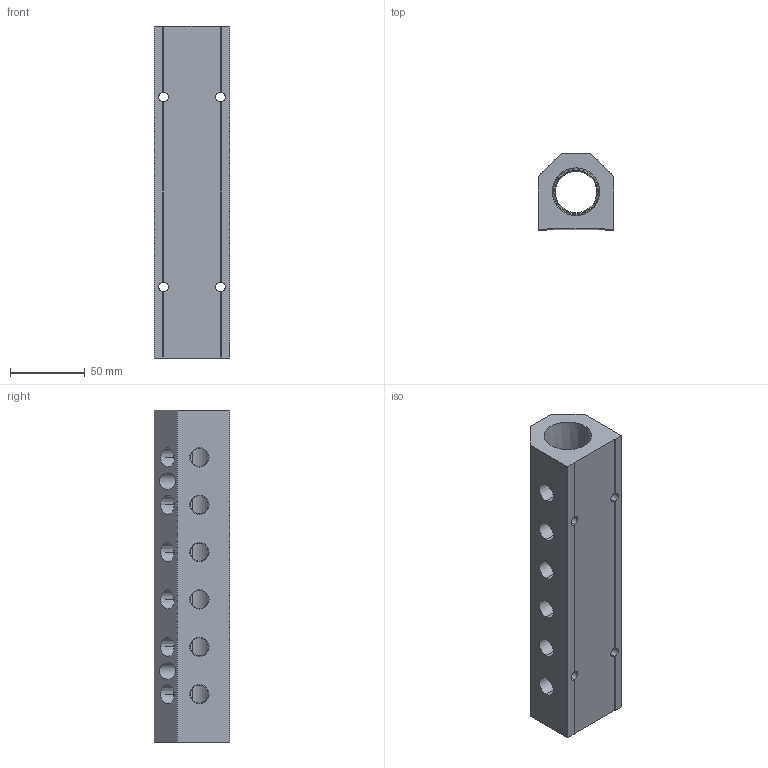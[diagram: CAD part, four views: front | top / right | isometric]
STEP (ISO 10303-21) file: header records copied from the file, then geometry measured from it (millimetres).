
FILE_DESCRIPTION (( 'STEP AP214' ), '1' );
FILE_NAME ('ALM6ABC-N4N16-222B.STEP', '2023-11-02T06:36:00', ( '' ), ( '' ), 'SwSTEP 2.0', 'SolidWorks 2020', '' );
FILE_SCHEMA (( 'AUTOMOTIVE_DESIGN' ));
Length unit declared in the file: millimetre
Products named in the file (1): ALM6ABC-N4N16-222B
Bounding box: 50.8 x 50.8 x 222 mm (x, y, z)
Volume: 337937.2 mm3; surface area: 72077.5 mm2
Topology: 1 solids, 1 shells, 350 faces, 941 edges, 622 vertices
Faces by surface type: plane 217, bspline 67, cone 44, cylinder 22
Entity records: 19783 total; most frequent: CARTESIAN_POINT 8195, ORIENTED_EDGE 1882, DIRECTION 1391, EDGE_CURVE 941, VECTOR 663, LINE 663, VERTEX_POINT 622, EDGE_LOOP 425
